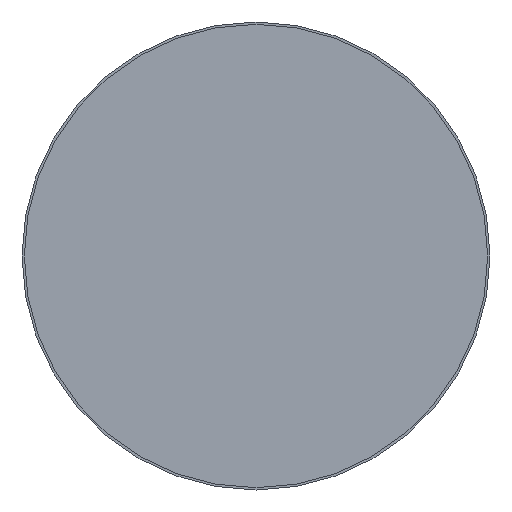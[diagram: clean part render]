
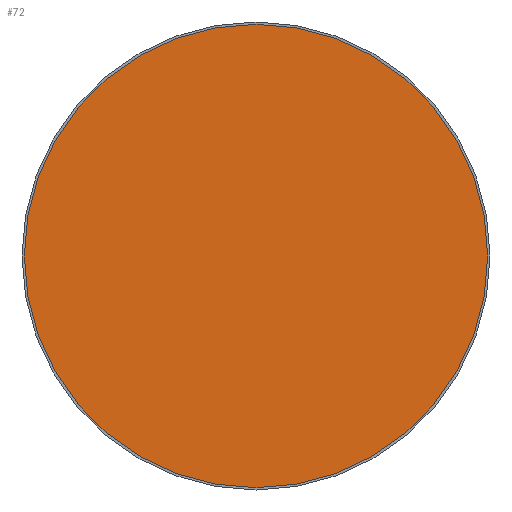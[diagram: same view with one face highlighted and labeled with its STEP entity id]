
A CAD part, front view. The second image highlights one B-rep face of the part: STEP entity #72.
In plain terms, the highlighted planar face has unit normal (0, -1, 0).
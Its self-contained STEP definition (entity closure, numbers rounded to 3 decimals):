
#25=CARTESIAN_POINT('',(263.551,113.681,-51.0));
#26=VERTEX_POINT('',#25);
#33=CARTESIAN_POINT('',(263.551,113.681,51.0));
#34=VERTEX_POINT('',#33);
#35=CARTESIAN_POINT('',(263.551,113.681,0.0));
#36=DIRECTION('',(0.0,-1.0,0.0));
#37=DIRECTION('',(0.0,0.0,-1.0));
#38=AXIS2_PLACEMENT_3D('',#35,#36,#37);
#39=CIRCLE('',#38,51.0);
#40=EDGE_CURVE('',#34,#26,#39,.T.);
#42=CARTESIAN_POINT('',(263.551,113.681,0.0));
#43=DIRECTION('',(0.0,-1.0,0.0));
#44=DIRECTION('',(0.0,0.0,-1.0));
#45=AXIS2_PLACEMENT_3D('',#42,#43,#44);
#46=CIRCLE('',#45,51.0);
#47=EDGE_CURVE('',#26,#34,#46,.T.);
#63=CARTESIAN_POINT('',(202.351,113.681,61.2));
#64=DIRECTION('',(0.0,-1.0,0.0));
#65=DIRECTION('',(0.0,0.0,-1.0));
#66=AXIS2_PLACEMENT_3D('',#63,#64,#65);
#67=PLANE('',#66);
#68=ORIENTED_EDGE('',*,*,#47,.T.);
#69=ORIENTED_EDGE('',*,*,#40,.T.);
#70=EDGE_LOOP('',(#68,#69));
#71=FACE_OUTER_BOUND('',#70,.T.);
#72=ADVANCED_FACE('',(#71),#67,.T.);
